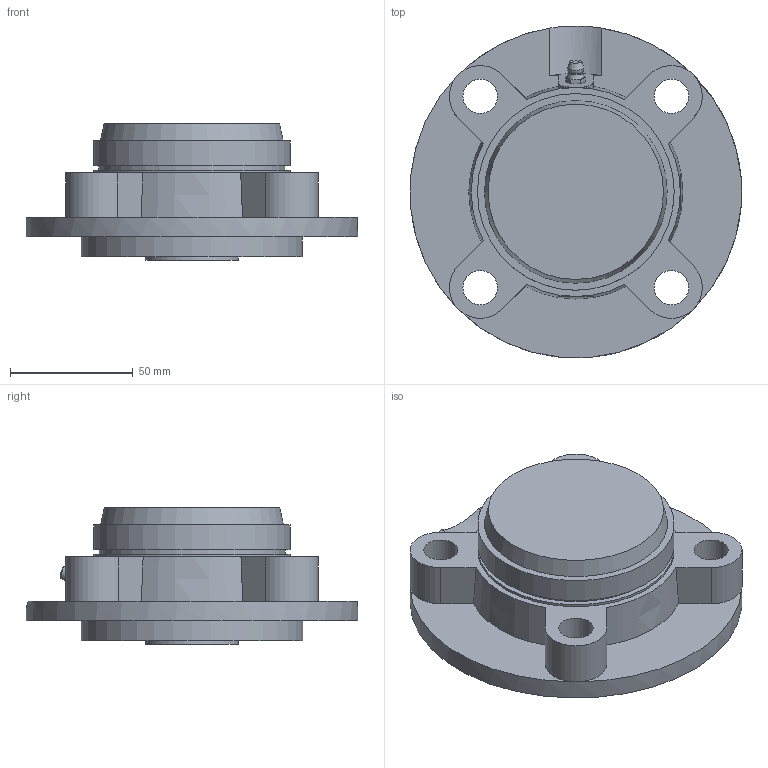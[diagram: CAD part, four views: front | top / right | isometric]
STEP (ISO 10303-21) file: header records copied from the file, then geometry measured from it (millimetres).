
FILE_DESCRIPTION((''),'2;1');
FILE_NAME('\\Ts-tgl068\j-cad-d-base\00.3DCADデータ作成フォルダ\02.フランジ形\UKFC200C(E)\UKFC207E+H.stp','2014-05-22T07:52:25',('btec_1106_2'),(''),'Autodesk Inventor 2012','Autodesk Inventor 2012','');
FILE_SCHEMA(('AUTOMOTIVE_DESIGN { 1 0 10303 214 1 1 1 1 }'));
Length unit declared in the file: millimetre
Products named in the file (5): UKFC200E+H; FC207C; 207CPE; UK207; GU1
Assembly tree (4 placements, depth 2):
  UKFC200E+H
    FC207C
    207CPE
    UK207
    GU1
Bounding box: 134.84 x 134.96 x 55.5 mm (x, y, z)
Volume: 242047.3 mm3; surface area: 89362.4 mm2
Topology: 4 solids, 4 shells, 199 faces, 506 edges, 329 vertices
Faces by surface type: plane 88, cylinder 52, cone 51, sphere 4, bspline 2, torus 2
Full cylindrical faces by diameter (mm): 5.359 x1, 6.35 x1, 14 x4, 30 x1, 48 x2, 74 x1, 75.6 x1, 78.4 x2, 80 x3, 90 x1, 135 x1
Entity records: 5958 total; most frequent: CARTESIAN_POINT 1356, ORIENTED_EDGE 936, DIRECTION 923, EDGE_CURVE 468, AXIS2_PLACEMENT_3D 383, VERTEX_POINT 318, EDGE_LOOP 257, FACE_OUTER_BOUND 199
